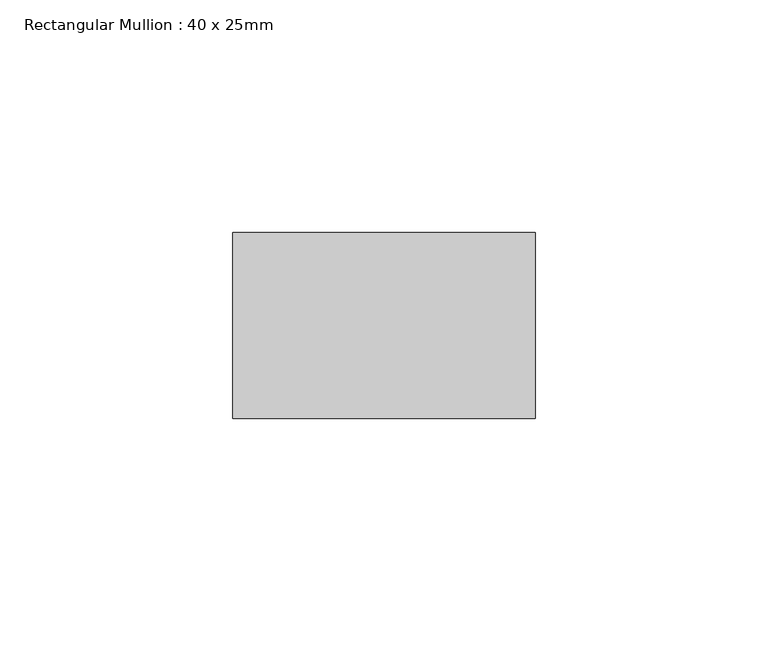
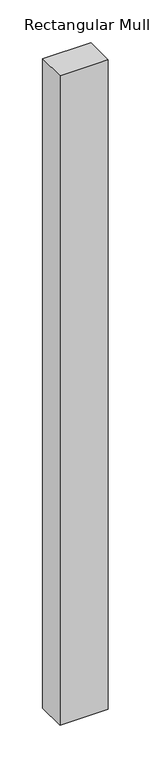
"""IFC4 building model written with IfcOpenShell, lengths in millimetres: member geometry, Rectangular Mullion : 40 x 25mm."""

from ifc_helpers import new_model, si_unit, frame, origin, place, context, project, spatial, polyline, outline, extrude, source, transform, mapped, element, save


def rectangular_mullion_40_x_25mm_e9baa514(model_context):
    return source(origin(), model_context, "Body", "SweptSolid", [
        extrude(outline(polyline([(0.0, -20.0), (0.0, -60.0), (-65.0, -60.0), (-65.0, -20.0), (0.0, -20.0)])), frame((0.0, 0.0, -923.8807552), z_axis=(0.0, 0.0, 1.0), x_axis=(1.0, 0.0, 0.0)), (0.0, 0.0, 1.0), 923.8807552),
    ])


if __name__ == "__main__":
    model = new_model("IFC4")
    model_context = context("Model", 3, world=origin())
    ifc_project = project(units=[si_unit("LENGTHUNIT", "METRE", prefix="MILLI")], contexts=[model_context])
    site = spatial("IfcSite", under=ifc_project)
    building = spatial("IfcBuilding", under=site)
    placement = place(None, origin())
    rectangular_mullion_40_x_25mm_shape = rectangular_mullion_40_x_25mm_e9baa514(model_context)
    element("IfcMember", 1, ObjectType="Rectangular Mullion : 40 x 25mm", at=placement, inside=building, context=model_context, shape_type="MappedRepresentation", body=[
        mapped(rectangular_mullion_40_x_25mm_shape, transform((0.0, 0.0, 0.0), x_axis=(1.0, 0.0, 0.0), y_axis=(0.0, 1.0, 0.0), z_axis=(0.0, 0.0, 1.0))),
    ])
    save(model, "model.ifc")
